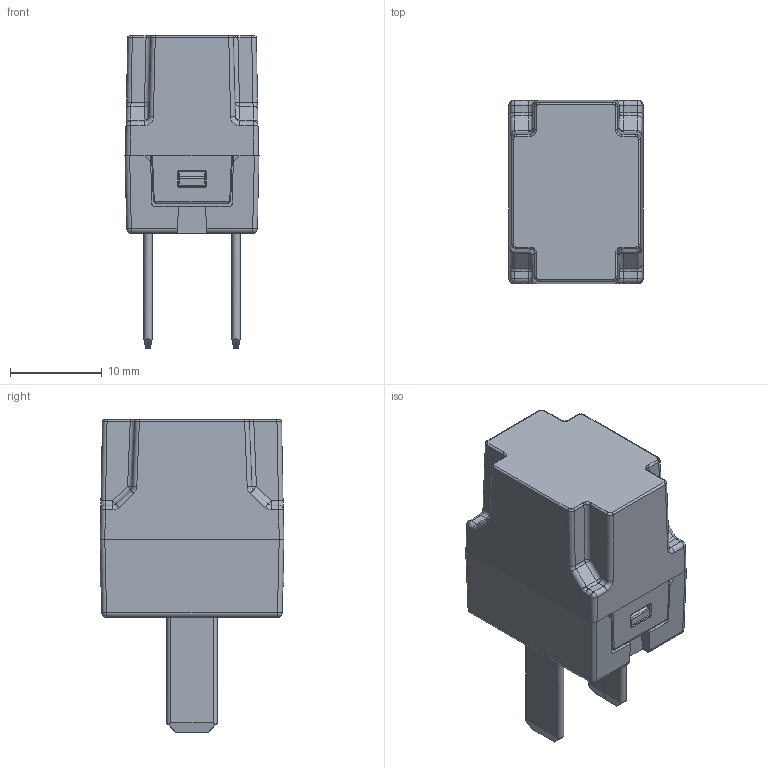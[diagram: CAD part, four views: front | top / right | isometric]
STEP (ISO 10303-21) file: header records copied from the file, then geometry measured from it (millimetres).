
FILE_DESCRIPTION(/* description */ ('STEP AP214'),/* implementation_level */ '2;1');
FILE_NAME(/* name */ 'PTC.step',/* time_stamp */ '2025-12-16T16:38:32+09:00',/* author */ (''),/* organization */ (''),/* preprocessor_version */ 'ST-DEVELOPER v20.1',/* originating_system */ 'Autodesk Translation Framework v14.21.0.0',/* authorisation */ '');
FILE_SCHEMA (('AUTOMOTIVE_DESIGN { 1 0 10303 214 3 1 1 }'));
Length unit declared in the file: millimetre
Products named in the file (1): PTC complete
Bounding box: 14.6 x 20 x 34 mm (x, y, z)
Volume: 5749 mm3; surface area: 2806.3 mm2
Topology: 1 solids, 1 shells, 299 faces, 752 edges, 444 vertices
Faces by surface type: plane 127, cylinder 110, bspline 34, sphere 16, torus 12
Entity records: 9326 total; most frequent: CARTESIAN_POINT 2176, DIRECTION 1518, ORIENTED_EDGE 1472, EDGE_CURVE 736, AXIS2_PLACEMENT_3D 538, VERTEX_POINT 444, LINE 442, VECTOR 442
